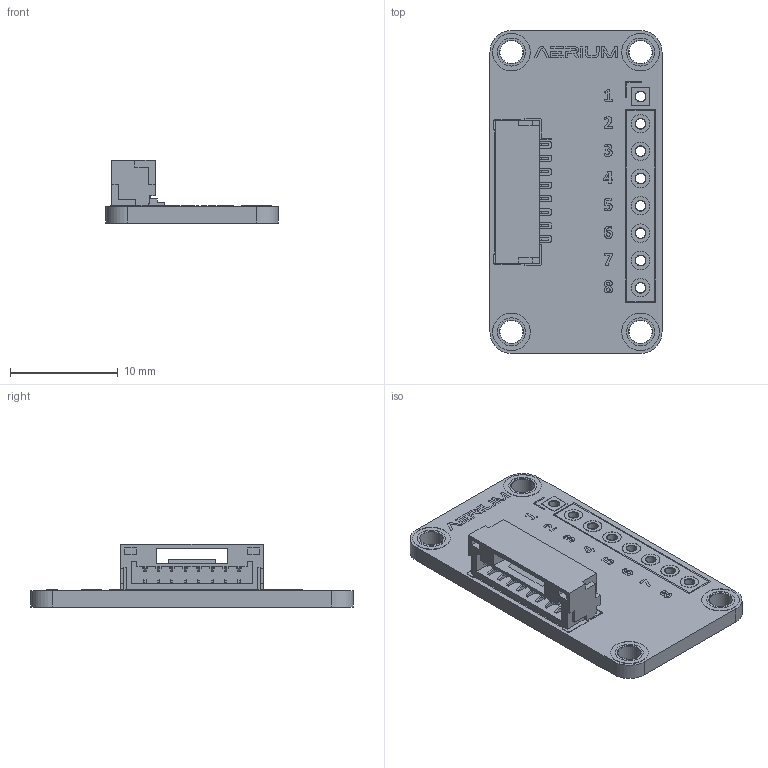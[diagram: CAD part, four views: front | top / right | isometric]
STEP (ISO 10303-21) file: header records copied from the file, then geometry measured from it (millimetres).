
FILE_DESCRIPTION(/* description */ ('KiCad electronic assembly'),/* implementation_level */ '2;1');
FILE_NAME(/* name */ 'Aerium_8P_JST_GH_Breakout_Board_3D_Model.step',/* time_stamp */ '2026-09-20T15:37:20+03:00',/* author */ (''),/* organization */ (''),/* preprocessor_version */ 'ST-DEVELOPER v20.1',/* originating_system */ 'Autodesk Translation Framework v15.8.0.0',/* authorisation */ '');
FILE_SCHEMA (('AUTOMOTIVE_DESIGN { 1 0 10303 214 3 1 1 }'));
Length unit declared in the file: millimetre
Products named in the file (6): 2026-09-20-12-35-19-283; 2026-09-20-12-35-19-285; 2026-09-20-12-35-19-286; 2026-09-20-12-35-19-287; 2026-09-20-12-35-19-288; 2026-09-20-12-35-19-289
Assembly tree (5 placements, depth 2):
  2026-09-20-12-35-19-283
    2026-09-20-12-35-19-285
    2026-09-20-12-35-19-286
    2026-09-20-12-35-19-287
    2026-09-20-12-35-19-288
    2026-09-20-12-35-19-289
Bounding box: 16 x 30 x 5.92 mm (x, y, z)
Volume: 831 mm3; surface area: 1974.5 mm2
Topology: 56 solids, 91 shells, 666 faces, 2626 edges, 2119 vertices
Faces by surface type: plane 524, cylinder 142
Full cylindrical faces by diameter (mm): 0.95 x24, 1 x16, 1.7 x14, 2.15 x20, 2.2 x8, 2.6 x8, 3.5 x8
Entity records: 28379 total; most frequent: CARTESIAN_POINT 5423, DIRECTION 4401, ORIENTED_EDGE 4129, EDGE_CURVE 2626, LINE 2207, VECTOR 2207, VERTEX_POINT 2119, AXIS2_PLACEMENT_3D 1097
